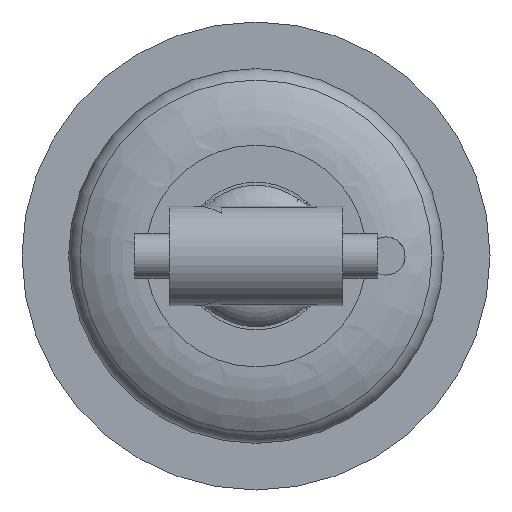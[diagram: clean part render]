
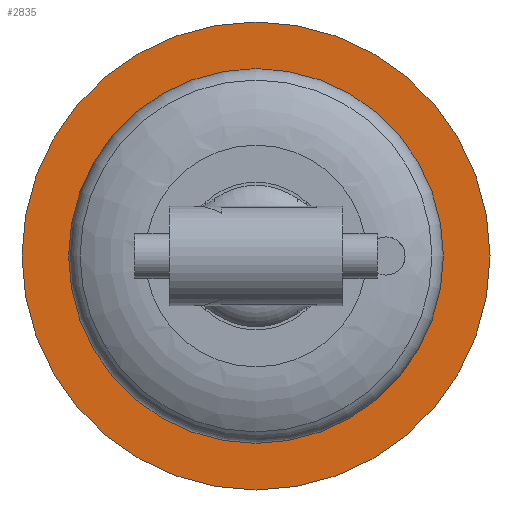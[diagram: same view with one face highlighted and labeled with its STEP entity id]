
A CAD part, front view. The second image highlights one B-rep face of the part: STEP entity #2835.
In plain terms, the highlighted planar face has unit normal (0, -1, 0).
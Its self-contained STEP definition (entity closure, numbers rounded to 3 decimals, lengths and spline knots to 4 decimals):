
#373 = VERTEX_POINT ( 'NONE', #23894 ) ;
#2835 = ADVANCED_FACE ( 'NONE', ( #13614, #24727 ), #16630, .T. ) ;
#12904 = AXIS2_PLACEMENT_3D ( 'NONE', #23166, #15576, #38821 ) ;
#13105 = DIRECTION ( 'NONE',  ( 0., -1., 0. ) ) ;
#13310 = DIRECTION ( 'NONE',  ( 0., 0., 1. ) ) ;
#13614 = FACE_BOUND ( 'NONE', #45814, .T. ) ;
#13988 = ORIENTED_EDGE ( 'NONE', *, *, #41298, .T. ) ;
#15576 = DIRECTION ( 'NONE',  ( 0., 1., 0. ) ) ;
#16385 = DIRECTION ( 'NONE',  ( 0., 0., -1. ) ) ;
#16630 = PLANE ( 'NONE',  #19627 ) ;
#19627 = AXIS2_PLACEMENT_3D ( 'NONE', #32598, #13105, #16385 ) ;
#23166 = CARTESIAN_POINT ( 'NONE',  ( 0., 20.294, 0. ) ) ;
#23894 = CARTESIAN_POINT ( 'NONE',  ( 0., 20.294, 5.4051 ) ) ;
#24727 = FACE_OUTER_BOUND ( 'NONE', #25874, .T. ) ;
#25874 = EDGE_LOOP ( 'NONE', ( #47359 ) ) ;
#26041 = EDGE_CURVE ( 'NONE', #34310, #34310, #31283, .T. ) ;
#29522 = CARTESIAN_POINT ( 'NONE',  ( 0., 20.294, 6.75 ) ) ;
#30696 = CIRCLE ( 'NONE', #12904, 5.4051 ) ;
#31283 = CIRCLE ( 'NONE', #32073, 6.75 ) ;
#32073 = AXIS2_PLACEMENT_3D ( 'NONE', #32791, #44617, #13310 ) ;
#32598 = CARTESIAN_POINT ( 'NONE',  ( -5.4051, 20.294, 0. ) ) ;
#32791 = CARTESIAN_POINT ( 'NONE',  ( 0., 20.294, 0. ) ) ;
#34310 = VERTEX_POINT ( 'NONE', #29522 ) ;
#38821 = DIRECTION ( 'NONE',  ( 0., 0., 1. ) ) ;
#41298 = EDGE_CURVE ( 'NONE', #373, #373, #30696, .T. ) ;
#44617 = DIRECTION ( 'NONE',  ( 0., 1., 0. ) ) ;
#45814 = EDGE_LOOP ( 'NONE', ( #13988 ) ) ;
#47359 = ORIENTED_EDGE ( 'NONE', *, *, #26041, .F. ) ;
